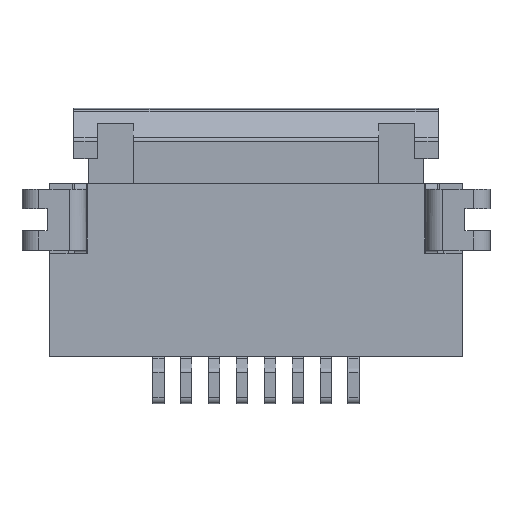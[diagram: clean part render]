
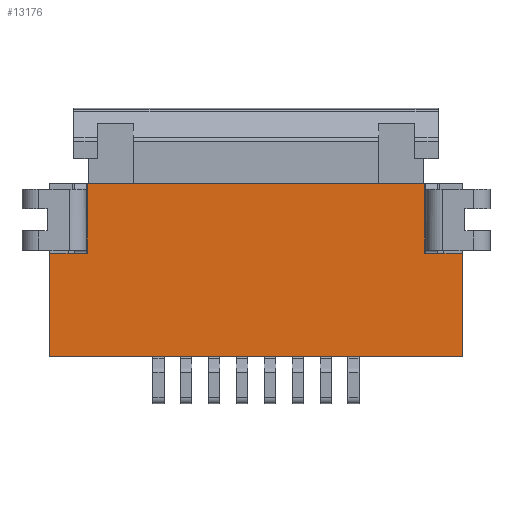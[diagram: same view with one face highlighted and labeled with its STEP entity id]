
A CAD part, top view. The second image highlights one B-rep face of the part: STEP entity #13176.
In plain terms, the highlighted planar face has unit normal (0, 0, 1).
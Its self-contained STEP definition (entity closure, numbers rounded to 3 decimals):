
#462=DIRECTION('',(1.,0.,0.));
#463=VECTOR('',#462,6.06);
#464=CARTESIAN_POINT('',(1.17,3.95,-0.05));
#465=LINE('',#464,#463);
#466=DIRECTION('',(0.,-1.,0.));
#467=VECTOR('',#466,1.25);
#468=CARTESIAN_POINT('',(7.23,3.95,-0.05));
#469=LINE('',#468,#467);
#470=DIRECTION('',(0.,-1.,0.));
#471=VECTOR('',#470,1.85);
#472=CARTESIAN_POINT('',(7.9,2.7,-0.05));
#473=LINE('',#472,#471);
#474=DIRECTION('',(-1.,0.,0.));
#475=VECTOR('',#474,7.4);
#476=CARTESIAN_POINT('',(7.9,0.85,-0.05));
#477=LINE('',#476,#475);
#478=DIRECTION('',(0.,1.,0.));
#479=VECTOR('',#478,1.85);
#480=CARTESIAN_POINT('',(0.5,0.85,-0.05));
#481=LINE('',#480,#479);
#482=DIRECTION('',(0.,1.,0.));
#483=VECTOR('',#482,1.25);
#484=CARTESIAN_POINT('',(1.17,2.7,-0.05));
#485=LINE('',#484,#483);
#3896=DIRECTION('',(-1.,0.,0.));
#3897=VECTOR('',#3896,0.67);
#3898=CARTESIAN_POINT('',(1.17,2.7,-0.05));
#3899=LINE('',#3898,#3897);
#5295=DIRECTION('',(-1.,0.,0.));
#5296=VECTOR('',#5295,0.67);
#5297=CARTESIAN_POINT('',(7.9,2.7,-0.05));
#5298=LINE('',#5297,#5296);
#9423=CARTESIAN_POINT('',(0.5,2.7,-0.05));
#9424=VERTEX_POINT('',#9423);
#9425=CARTESIAN_POINT('',(0.5,0.85,-0.05));
#9426=VERTEX_POINT('',#9425);
#9973=CARTESIAN_POINT('',(1.17,3.95,-0.05));
#9974=VERTEX_POINT('',#9973);
#11267=CARTESIAN_POINT('',(1.17,2.7,-0.05));
#11268=VERTEX_POINT('',#11267);
#11792=CARTESIAN_POINT('',(7.9,0.85,-0.05));
#11793=VERTEX_POINT('',#11792);
#11794=CARTESIAN_POINT('',(7.9,2.7,-0.05));
#11795=VERTEX_POINT('',#11794);
#11921=CARTESIAN_POINT('',(7.23,3.95,-0.05));
#11923=VERTEX_POINT('',#11921);
#11998=CARTESIAN_POINT('',(7.23,2.7,-0.05));
#11999=VERTEX_POINT('',#11998);
#13156=CARTESIAN_POINT('',(3.225,2.4,-0.05));
#13157=DIRECTION('',(0.,0.,1.));
#13158=DIRECTION('',(0.,-1.,0.));
#13159=AXIS2_PLACEMENT_3D('',#13156,#13157,#13158);
#13160=PLANE('',#13159);
#13162=ORIENTED_EDGE('',*,*,#13161,.T.);
#13164=ORIENTED_EDGE('',*,*,#13163,.T.);
#13166=ORIENTED_EDGE('',*,*,#13165,.F.);
#13167=ORIENTED_EDGE('',*,*,#13143,.T.);
#13168=ORIENTED_EDGE('',*,*,#12409,.T.);
#13169=ORIENTED_EDGE('',*,*,#12366,.T.);
#13171=ORIENTED_EDGE('',*,*,#13170,.F.);
#13173=ORIENTED_EDGE('',*,*,#13172,.T.);
#13174=EDGE_LOOP('',(#13162,#13164,#13166,#13167,#13168,#13169,#13171,#13173));
#13175=FACE_OUTER_BOUND('',#13174,.F.);
#12366=EDGE_CURVE('',#9426,#9424,#481,.T.);
#12409=EDGE_CURVE('',#11793,#9426,#477,.T.);
#13143=EDGE_CURVE('',#11795,#11793,#473,.T.);
#13161=EDGE_CURVE('',#9974,#11923,#465,.T.);
#13163=EDGE_CURVE('',#11923,#11999,#469,.T.);
#13165=EDGE_CURVE('',#11795,#11999,#5298,.T.);
#13170=EDGE_CURVE('',#11268,#9424,#3899,.T.);
#13172=EDGE_CURVE('',#11268,#9974,#485,.T.);
#13176=ADVANCED_FACE('',(#13175),#13160,.T.);
